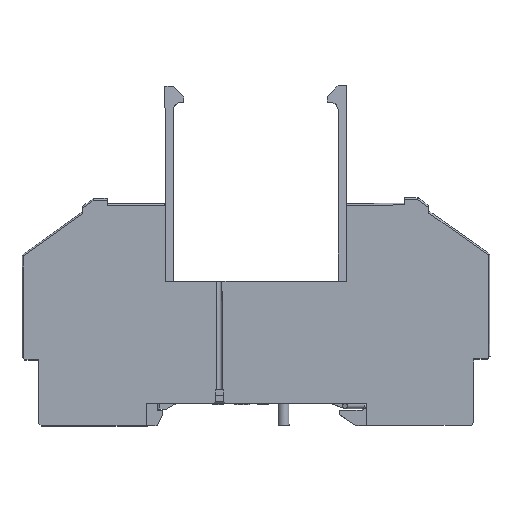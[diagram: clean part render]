
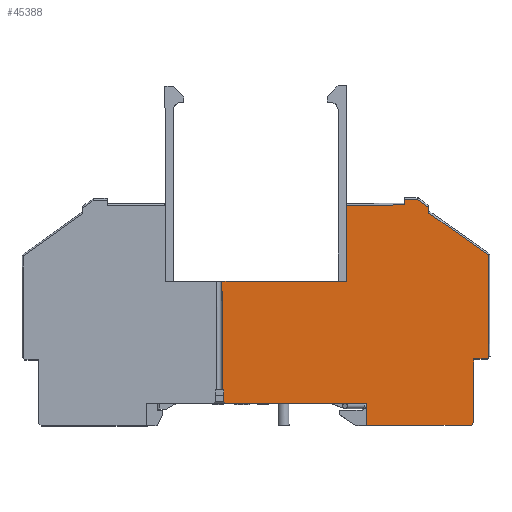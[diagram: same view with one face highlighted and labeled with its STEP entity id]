
A CAD part, top view. The second image highlights one B-rep face of the part: STEP entity #45388.
In plain terms, the highlighted planar face has unit normal (0, 0, 1).
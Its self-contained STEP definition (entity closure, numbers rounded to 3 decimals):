
#3377=FACE_OUTER_BOUND($,#5734,.T.);
#5734=EDGE_LOOP($,(#33834,#33835,#33836,#33837,#33838,#33839,#33840,#33841,
#33842,#33843,#33844,#33845,#33846,#33847,#33848,#33849,#33850,#33851,#33852,
#33853));
#7991=LINE($,#63539,#12988);
#9554=LINE($,#70970,#14551);
#9558=LINE($,#70984,#14555);
#9559=LINE($,#70986,#14556);
#9560=LINE($,#70988,#14557);
#9561=LINE($,#70990,#14558);
#9562=LINE($,#70992,#14559);
#9563=LINE($,#70994,#14560);
#9564=LINE($,#70995,#14561);
#9565=LINE($,#70997,#14562);
#9566=LINE($,#70999,#14563);
#9567=LINE($,#71001,#14564);
#9568=LINE($,#71003,#14565);
#9569=LINE($,#71005,#14566);
#9570=LINE($,#71007,#14567);
#9571=LINE($,#71009,#14568);
#9572=LINE($,#71011,#14569);
#9573=LINE($,#71013,#14570);
#9574=LINE($,#71015,#14571);
#9575=LINE($,#71016,#14572);
#12988=VECTOR($,#51552,26.);
#14551=VECTOR($,#54857,10.7);
#14555=VECTOR($,#54871,1.);
#14556=VECTOR($,#54872,14.);
#14557=VECTOR($,#54873,22.96);
#14558=VECTOR($,#54874,20.);
#14559=VECTOR($,#54875,0.3);
#14560=VECTOR($,#54876,2.2);
#14561=VECTOR($,#54877,0.424);
#14562=VECTOR($,#54878,4.1);
#14563=VECTOR($,#54879,19.26);
#14564=VECTOR($,#54880,0.707);
#14565=VECTOR($,#54881,11.7);
#14566=VECTOR($,#54882,2.5);
#14567=VECTOR($,#54883,0.283);
#14568=VECTOR($,#54884,18.945);
#14569=VECTOR($,#54885,13.381);
#14570=VECTOR($,#54886,1.);
#14571=VECTOR($,#54887,2.573);
#14572=VECTOR($,#54888,2.404);
#17896=VERTEX_POINT($,#63536);
#17897=VERTEX_POINT($,#63538);
#19539=VERTEX_POINT($,#70968);
#19540=VERTEX_POINT($,#70969);
#19545=VERTEX_POINT($,#70983);
#19546=VERTEX_POINT($,#70985);
#19547=VERTEX_POINT($,#70987);
#19548=VERTEX_POINT($,#70989);
#19549=VERTEX_POINT($,#70991);
#19550=VERTEX_POINT($,#70993);
#19551=VERTEX_POINT($,#70996);
#19552=VERTEX_POINT($,#70998);
#19553=VERTEX_POINT($,#71000);
#19554=VERTEX_POINT($,#71002);
#19555=VERTEX_POINT($,#71004);
#19556=VERTEX_POINT($,#71006);
#19557=VERTEX_POINT($,#71008);
#19558=VERTEX_POINT($,#71010);
#19559=VERTEX_POINT($,#71012);
#19560=VERTEX_POINT($,#71014);
#22489=EDGE_CURVE($,#17897,#17896,#7991,.T.);
#24761=EDGE_CURVE($,#19539,#19540,#9554,.T.);
#24768=EDGE_CURVE($,#19540,#19545,#9558,.T.);
#24769=EDGE_CURVE($,#19539,#19546,#9559,.T.);
#24770=EDGE_CURVE($,#19546,#19547,#9560,.T.);
#24771=EDGE_CURVE($,#19547,#19548,#9561,.T.);
#24772=EDGE_CURVE($,#19548,#19549,#9562,.T.);
#24773=EDGE_CURVE($,#19549,#19550,#9563,.T.);
#24774=EDGE_CURVE($,#17897,#19550,#9564,.T.);
#24775=EDGE_CURVE($,#17896,#19551,#9565,.T.);
#24776=EDGE_CURVE($,#19551,#19552,#9566,.T.);
#24777=EDGE_CURVE($,#19553,#19552,#9567,.T.);
#24778=EDGE_CURVE($,#19553,#19554,#9568,.T.);
#24779=EDGE_CURVE($,#19554,#19555,#9569,.T.);
#24780=EDGE_CURVE($,#19556,#19555,#9570,.T.);
#24781=EDGE_CURVE($,#19557,#19556,#9571,.T.);
#24782=EDGE_CURVE($,#19558,#19557,#9572,.T.);
#24783=EDGE_CURVE($,#19558,#19559,#9573,.T.);
#24784=EDGE_CURVE($,#19560,#19559,#9574,.T.);
#24785=EDGE_CURVE($,#19545,#19560,#9575,.T.);
#33834=ORIENTED_EDGE($,*,*,#24768,.F.);
#33835=ORIENTED_EDGE($,*,*,#24761,.F.);
#33836=ORIENTED_EDGE($,*,*,#24769,.T.);
#33837=ORIENTED_EDGE($,*,*,#24770,.T.);
#33838=ORIENTED_EDGE($,*,*,#24771,.T.);
#33839=ORIENTED_EDGE($,*,*,#24772,.T.);
#33840=ORIENTED_EDGE($,*,*,#24773,.T.);
#33841=ORIENTED_EDGE($,*,*,#24774,.F.);
#33842=ORIENTED_EDGE($,*,*,#22489,.T.);
#33843=ORIENTED_EDGE($,*,*,#24775,.T.);
#33844=ORIENTED_EDGE($,*,*,#24776,.T.);
#33845=ORIENTED_EDGE($,*,*,#24777,.F.);
#33846=ORIENTED_EDGE($,*,*,#24778,.T.);
#33847=ORIENTED_EDGE($,*,*,#24779,.T.);
#33848=ORIENTED_EDGE($,*,*,#24780,.F.);
#33849=ORIENTED_EDGE($,*,*,#24781,.F.);
#33850=ORIENTED_EDGE($,*,*,#24782,.F.);
#33851=ORIENTED_EDGE($,*,*,#24783,.T.);
#33852=ORIENTED_EDGE($,*,*,#24784,.F.);
#33853=ORIENTED_EDGE($,*,*,#24785,.F.);
#41297=PLANE($,#48105);
#45388=ADVANCED_FACE($,(#3377),#41297,.T.);
#48105=AXIS2_PLACEMENT_3D($,#70982,#54869,#54870);
#51552=DIRECTION($,(1.,0.002,0.));
#54857=DIRECTION($,(1.,0.002,0.));
#54869=DIRECTION('center_axis',(0.,0.,
1.));
#54870=DIRECTION('ref_axis',(1.,0.002,0.));
#54871=DIRECTION($,(-0.002,1.,0.));
#54872=DIRECTION($,(0.002,-1.,0.));
#54873=DIRECTION($,(-1.,-0.002,0.));
#54874=DIRECTION($,(0.002,-1.,0.));
#54875=DIRECTION($,(1.,0.002,0.));
#54876=DIRECTION($,(0.002,-1.,0.));
#54877=DIRECTION($,(-0.708,0.706,0.));
#54878=DIRECTION($,(0.002,-1.,0.));
#54879=DIRECTION($,(1.,0.002,0.));
#54880=DIRECTION($,(-0.706,-0.708,0.));
#54881=DIRECTION($,(-0.002,1.,0.));
#54882=DIRECTION($,(1.,0.002,0.));
#54883=DIRECTION($,(-0.706,-0.708,0.));
#54884=DIRECTION($,(0.002,-1.,0.));
#54885=DIRECTION($,(0.816,-0.579,0.));
#54886=DIRECTION($,(-0.002,1.,0.));
#54887=DIRECTION($,(0.816,-0.579,0.));
#54888=DIRECTION($,(1.,0.002,0.));
#63536=CARTESIAN_POINT('',(-12.449,43.54,-0.478));
#63538=CARTESIAN_POINT('',(-38.449,43.491,-0.478));
#63539=CARTESIAN_POINT($,(-41.919,43.485,-0.478));
#70968=CARTESIAN_POINT('',(-16.157,80.033,-0.479));
#70969=CARTESIAN_POINT('',(-5.457,80.053,-0.479));
#70970=CARTESIAN_POINT($,(-32.857,80.002,-0.479));
#70982=CARTESIAN_POINT('Origin',(-32.823,61.902,-0.479));
#70983=CARTESIAN_POINT('',(-5.459,81.053,-0.479));
#70984=CARTESIAN_POINT($,(-5.44,71.153,-0.479));
#70985=CARTESIAN_POINT('',(-16.131,66.033,-0.479));
#70986=CARTESIAN_POINT($,(-16.144,73.183,-0.479));
#70987=CARTESIAN_POINT('',(-39.091,65.99,-0.479));
#70988=CARTESIAN_POINT($,(-24.481,66.017,-0.479));
#70989=CARTESIAN_POINT('',(-39.053,45.99,-0.478));
#70990=CARTESIAN_POINT($,(-39.066,52.69,-0.478));
#70991=CARTESIAN_POINT('',(-38.753,45.991,-0.478));
#70992=CARTESIAN_POINT($,(-36.173,45.996,-0.478));
#70993=CARTESIAN_POINT('',(-38.749,43.791,-0.478));
#70994=CARTESIAN_POINT($,(-38.766,52.691,-0.478));
#70995=CARTESIAN_POINT($,(-41.715,46.745,-0.478));
#70996=CARTESIAN_POINT('',(-12.441,39.44,-0.478));
#70997=CARTESIAN_POINT($,(-12.462,50.69,-0.478));
#70998=CARTESIAN_POINT('',(6.819,39.476,-0.478));
#70999=CARTESIAN_POINT($,(7.719,39.477,-0.478));
#71000=CARTESIAN_POINT('',(7.318,39.977,-0.478));
#71001=CARTESIAN_POINT($,(2.677,35.318,-0.478));
#71002=CARTESIAN_POINT('',(7.296,51.677,-0.478));
#71003=CARTESIAN_POINT($,(7.298,50.727,-0.478));
#71004=CARTESIAN_POINT('',(9.796,51.681,-0.478));
#71005=CARTESIAN_POINT($,(-12.754,51.639,-0.478));
#71006=CARTESIAN_POINT('',(9.996,51.882,-0.478));
#71007=CARTESIAN_POINT($,(1.861,43.716,-0.478));
#71008=CARTESIAN_POINT('',(9.961,70.827,-0.479));
#71009=CARTESIAN_POINT($,(9.984,58.188,-0.478));
#71010=CARTESIAN_POINT('',(-0.954,78.569,-0.479));
#71011=CARTESIAN_POINT($,(-8.711,84.071,-0.479));
#71012=CARTESIAN_POINT('',(-0.956,79.569,-0.479));
#71013=CARTESIAN_POINT($,(-0.955,78.937,-0.479));
#71014=CARTESIAN_POINT('',(-3.054,81.057,-0.479));
#71015=CARTESIAN_POINT($,(-8.476,84.903,-0.479));
#71016=CARTESIAN_POINT($,(-18.534,81.028,-0.479));
